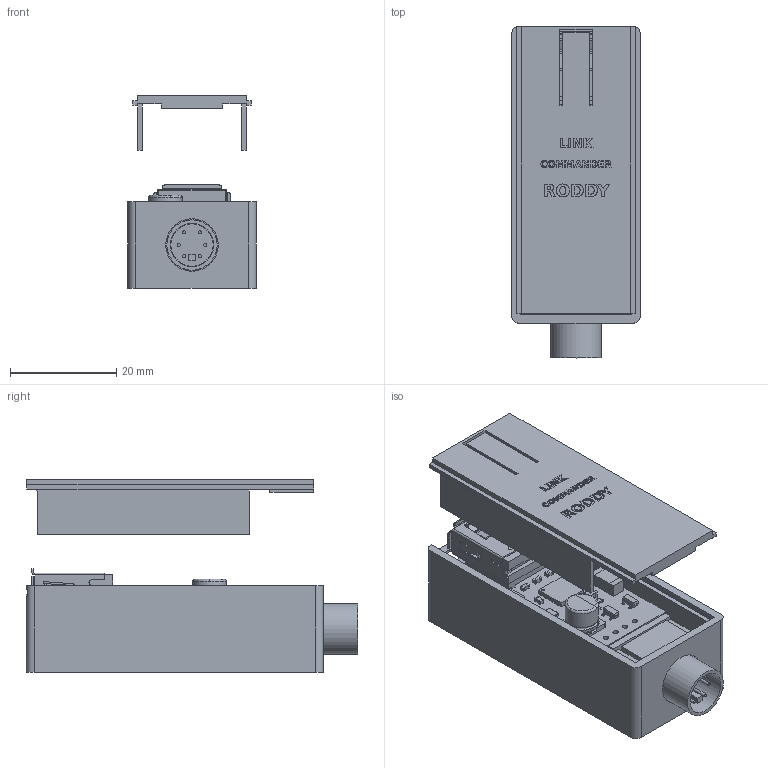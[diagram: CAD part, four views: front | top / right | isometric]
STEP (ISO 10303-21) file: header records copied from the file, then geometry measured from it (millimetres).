
FILE_DESCRIPTION(('Open CASCADE Model'),'2;1');
FILE_NAME('Open CASCADE Shape Model','2026-11-04T10:48:35',('Author'),( 'Open CASCADE'),'Open CASCADE STEP processor 7.9','Open CASCADE 7.9' ,'Unknown');
FILE_SCHEMA(('AUTOMOTIVE_DESIGN { 1 0 10303 214 1 1 1 1 }'));
Length unit declared in the file: millimetre
Products named in the file (47): dongle-direct-concept_exploded; base; lid; electronics_0; electronics_1; electronics_2; electronics_3; electronics_4; electronics_5; electronics_6; electronics_7; electronics_8; electronics_9; electronics_10; electronics_11; electronics_12; electronics_13; electronics_14; electronics_15; electronics_16; electronics_17; electronics_18; electronics_19; electronics_20; electronics_21; electronics_22; electronics_23; electronics_24; electronics_25; electronics_26; electronics_27; electronics_28; electronics_29; electronics_30; electronics_31; electronics_32; electronics_33; nominal_miniDIN_shell; insulator; pin_0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
Assembly tree (46 placements, depth 2):
  dongle-direct-concept_exploded
    base
    lid
    electronics_0
    electronics_1
    electronics_2
    electronics_3
    electronics_4
    electronics_5
    electronics_6
    electronics_7
    electronics_8
    electronics_9
    electronics_10
    electronics_11
    electronics_12
    electronics_13
    electronics_14
    electronics_15
    electronics_16
    electronics_17
    electronics_18
    electronics_19
    electronics_20
    electronics_21
    electronics_22
    electronics_23
    electronics_24
    electronics_25
    electronics_26
    electronics_27
    electronics_28
    electronics_29
    electronics_30
    electronics_31
    electronics_32
    electronics_33
    nominal_miniDIN_shell
    insulator
    pin_0
    pin_1
    pin_2
    pin_3
    pin_4
    pin_5
    key
    nominal_insert_body
Bounding box: 24.2 x 62.6 x 36.4 mm (x, y, z)
Volume: 12314.4 mm3; surface area: 18100.2 mm2
Topology: 46 solids, 46 shells, 1938 faces, 4916 edges, 3127 vertices
Faces by surface type: plane 1300, cylinder 339, bspline 186, extrusion 108, torus 4, revolution 1
Full cylindrical faces by diameter (mm): 0.5 x1, 0.6 x6, 0.95 x4, 1 x4, 2.3 x2, 6.3 x2, 8 x1, 8.2 x1, 9.5 x1, 9.9 x1
Entity records: 131030 total; most frequent: CARTESIAN_POINT 34488, DIRECTION 16466, VECTOR 11371, LINE 11263, ORIENTED_EDGE 9832, PCURVE 9832, DEFINITIONAL_REPRESENTATION 9832, EDGE_CURVE 4916
